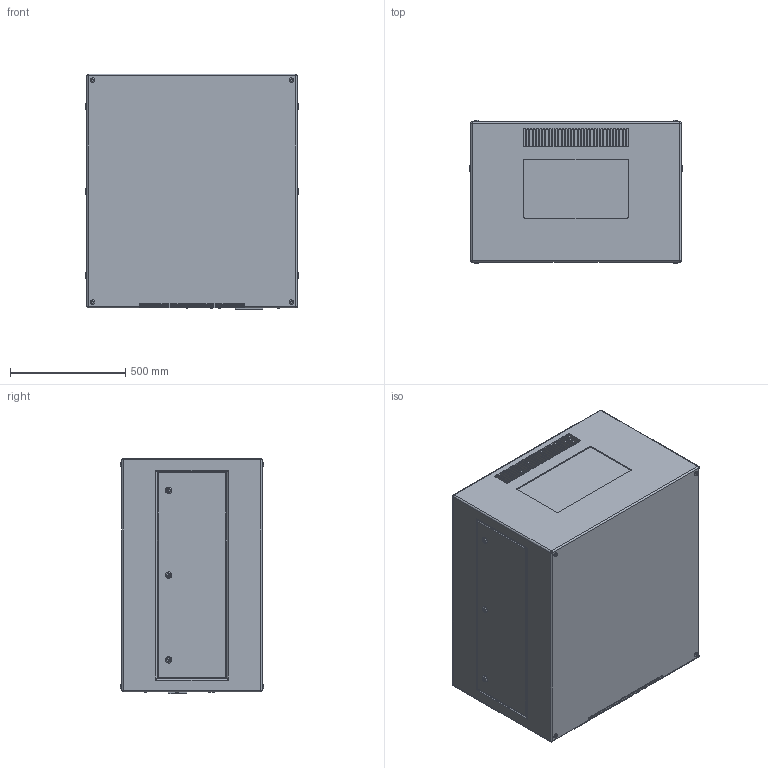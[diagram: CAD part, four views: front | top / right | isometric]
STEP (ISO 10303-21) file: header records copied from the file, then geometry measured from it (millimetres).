
FILE_DESCRIPTION (( 'STEP AP214' ), '1' );
FILE_NAME ('Zen 57.125.L R11.STEP', '2022-09-15T21:12:42', ( '' ), ( '' ), 'SwSTEP 2.0', 'SolidWorks 2020', '' );
FILE_SCHEMA (( 'AUTOMOTIVE_DESIGN' ));
Length unit declared in the file: inch
Products named in the file (1): Zen 57.125.L R11
Bounding box: 927.1 x 624.22 x 1023.62 mm (x, y, z)
Volume: 564927403.8 mm3; surface area: 4504288 mm2
Topology: 1 solids, 5 shells, 1098 faces, 2776 edges, 1706 vertices
Faces by surface type: plane 498, cylinder 478, sphere 74, torus 48
Entity records: 36106 total; most frequent: CARTESIAN_POINT 6003, DIRECTION 5824, ORIENTED_EDGE 5404, EDGE_CURVE 2702, AXIS2_PLACEMENT_3D 2103, VERTEX_POINT 1706, LINE 1618, VECTOR 1618
